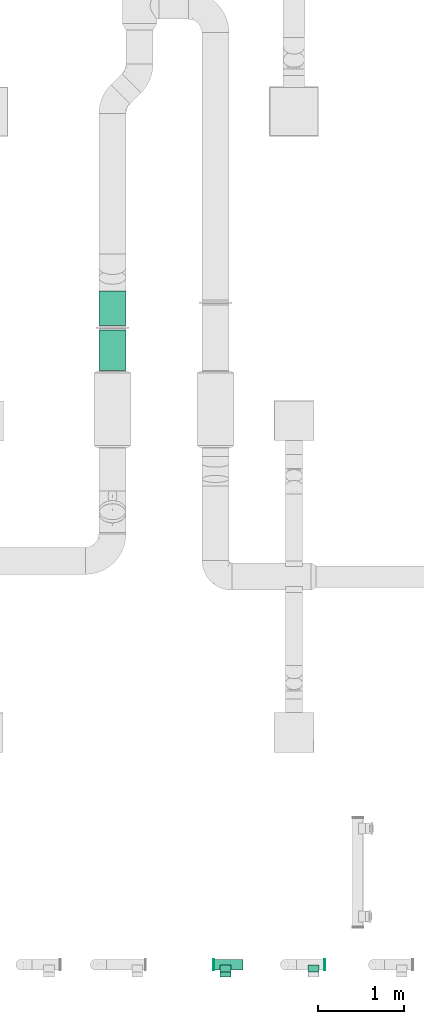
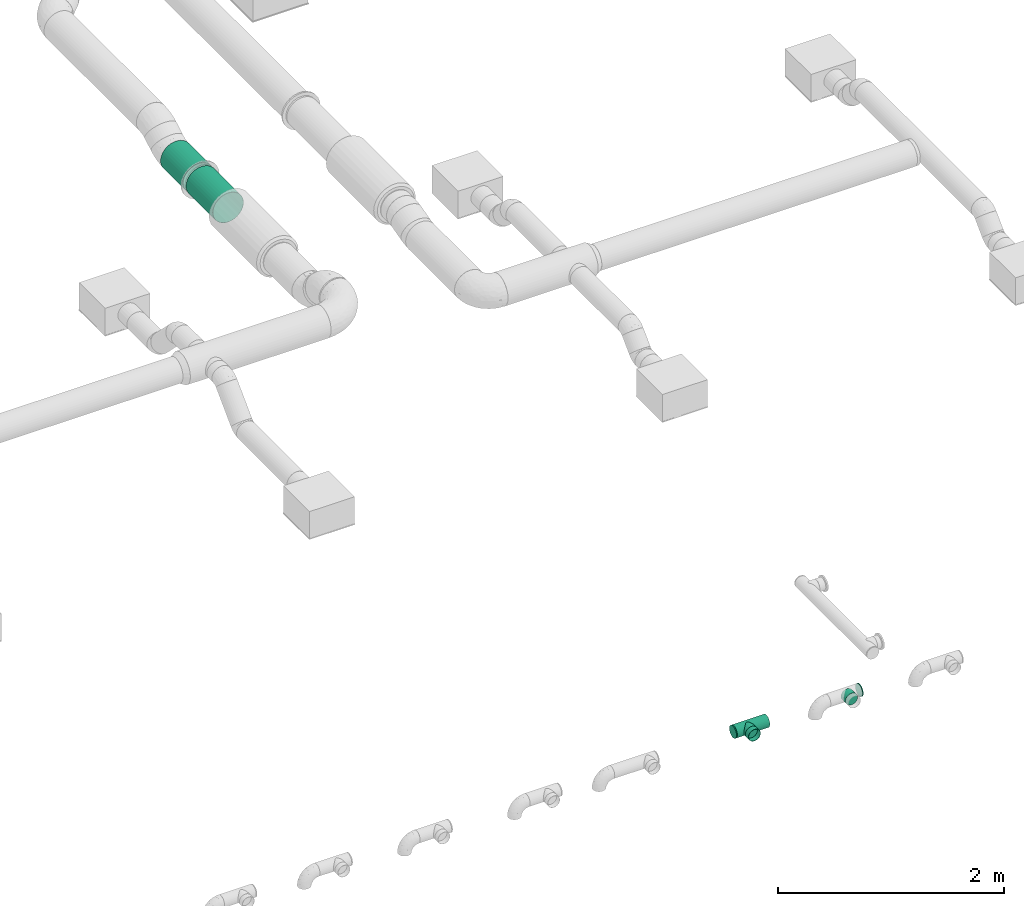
# One storey, part 11 of 63: 4 flow fittings, 4 flow segments.
"""IFC2X3 building model written with IfcOpenShell, lengths in millimetres."""

from ifc_helpers import new_model, entity, si_unit, converted_unit, derived_unit, direction, frame, origin_with_axes, origin_2d_with_axis, place, context, subcontext, project, spatial, hollow_circle, extrude, open_shell, surface_model, source, transform, mapped, type_object, element, save


model = new_model("IFC2X3")

# Units and contexts
model_context = context("Model", 3, precision=0.01, world=frame((0.0, 4.29681676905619e-09, 0.0)), true_north=direction((4.01073788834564e-13, 1.0)))
plan_context = context("Plan", 3, precision=0.01, world=frame((0.0, 4.29681676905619e-09, 0.0)), true_north=direction((4.01073788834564e-13, 1.0)))
body_context = subcontext(model_context, "Body", "Model", "MODEL_VIEW")
ifc_project = project(units=[converted_unit("PLANEANGLEUNIT", "DEGREE", entity("IfcPositiveLengthMeasure", 0.0174532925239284), si_unit("PLANEANGLEUNIT", "RADIAN"), dimensions=[0, 0, 0, 0, 0, 0, 0]), si_unit("AREAUNIT", "SQUARE_METRE"), si_unit("LENGTHUNIT", "METRE", prefix="MILLI"), si_unit("MASSUNIT", "GRAM", prefix="KILO"), si_unit("POWERUNIT", "WATT"), si_unit("PRESSUREUNIT", "PASCAL"), si_unit("FORCEUNIT", "NEWTON", prefix="KILO"), si_unit("ELECTRICVOLTAGEUNIT", "VOLT"), si_unit("ELECTRICCURRENTUNIT", "AMPERE"), si_unit("THERMODYNAMICTEMPERATUREUNIT", "DEGREE_CELSIUS"), si_unit("TIMEUNIT", "SECOND"), si_unit("VOLUMEUNIT", "CUBIC_METRE"), derived_unit("LINEARVELOCITYUNIT", [(si_unit("LENGTHUNIT", "METRE"), 1), (si_unit("TIMEUNIT", "SECOND"), -1)]), derived_unit("VOLUMETRICFLOWRATEUNIT", [(si_unit("VOLUMEUNIT", "CUBIC_METRE"), 1), (si_unit("TIMEUNIT", "SECOND"), -1)]), derived_unit("THERMALTRANSMITTANCEUNIT", [(si_unit("POWERUNIT", "WATT"), 1), (si_unit("THERMODYNAMICTEMPERATUREUNIT", "KELVIN"), -1), (si_unit("AREAUNIT", "SQUARE_METRE"), -1)]), derived_unit("SOUNDPRESSUREUNIT", [(si_unit("PRESSUREUNIT", "PASCAL"), 1)])], contexts=[model_context, plan_context])

# Site, building, storey
site_placement = place(None, frame((0.0, -4.29681676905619e-09, 0.0), z_axis=(0.0, 0.0, 1.0), x_axis=(1.0, 0.0, 0.0)))
site = spatial("IfcSite", under=ifc_project, at=site_placement, CompositionType="ELEMENT")
building_placement = place(site_placement, frame((0.0, 4.29681676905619e-09, 0.0), z_axis=(0.0, 0.0, 1.0), x_axis=(1.0, 0.0, 0.0)))
building = spatial("IfcBuilding", under=site, at=building_placement, Name="mc-building", CompositionType="ELEMENT")
storey_placement = place(building_placement, frame((0.0, 0.0, 210900.0), z_axis=(0.0, 0.0, 1.0), x_axis=(1.0, 0.0, 0.0)))
storey = spatial("IfcBuildingStorey", under=building, at=storey_placement, Name="Nivå F", CompositionType="ELEMENT", Elevation=210900.0)

# Flow fittings
duct_fitting_type_1 = type_object("IfcDuctFittingType", Name="magicirc_tapoutlet_001", PredefinedType="CONNECTOR")
shared_shape_1 = source(origin_with_axes(), body_context, "Body", "SurfaceModel", [
    surface_model("IfcShellBasedSurfaceModel", [(25.0, 0.0, -62.5), (25.0, 16.17619, -60.37037), (25.0, -16.17619, -60.37037), (25.0, -60.37037, 16.17619), (25.0, -31.25, -54.12659), (25.0, -44.19417, -44.19417), (25.0, -54.12659, -31.25), (25.0, 62.5, 0.0), (25.0, 60.37037, 16.17619), (25.0, 44.19417, -44.19417), (25.0, 31.25, -54.12659), (25.0, 60.37037, -16.17619), (25.0, 54.12659, -31.25), (25.0, -60.37037, -16.17619), (25.0, -54.12659, 31.25), (25.0, -44.19417, 44.19417), (25.0, -16.17619, 60.37037), (25.0, -31.25, 54.12659), (25.0, 16.17619, 60.37037), (25.0, 54.12659, 31.25), (25.0, 44.19417, 44.19417), (25.0, 31.25, 54.12659), (25.0, 0.0, 62.5), (25.0, -62.5, 0.0), (0.0, 0.0, 62.5), (0.0, -16.17619, 60.37037), (0.0, -44.19417, 44.19417), (0.0, -31.25, 54.12659), (0.0, -54.12659, 31.25), (0.0, -60.37037, 16.17619), (0.0, -62.5, 0.0), (0.0, -60.37037, -16.17619), (0.0, -44.19417, -44.19417), (0.0, -54.12659, -31.25), (0.0, -31.25, -54.12659), (0.0, -16.17619, -60.37037), (0.0, 0.0, -62.5), (0.0, 16.17619, -60.37037), (0.0, 44.19417, -44.19417), (0.0, 31.25, -54.12659), (0.0, 54.12659, -31.25), (0.0, 60.37037, -16.17619), (0.0, 62.5, 0.0), (0.0, 60.37037, 16.17619), (0.0, 44.19417, 44.19417), (0.0, 54.12659, 31.25), (0.0, 31.25, 54.12659), (0.0, 16.17619, 60.37037), (-56.404, -16.17619, -60.37037), (-56.404, -62.5, 0.0), (-56.404, 0.0, -62.5), (-56.404, -31.25, -54.12659), (-56.404, -44.19417, -44.19417), (-56.404, -54.12659, -31.25), (-56.404, 44.19417, -44.19417), (-56.404, 60.37037, 16.17619), (-56.404, 31.25, -54.12659), (-56.404, 16.17619, -60.37037), (-56.404, 54.12659, -31.25), (-56.404, 60.37037, -16.17619), (-56.404, 62.5, 0.0), (-56.404, -60.37037, -16.17619), (-56.404, -60.37037, 16.17619), (-56.404, -54.12659, 31.25), (-56.404, -44.19417, 44.19417), (-56.404, -31.25, 54.12659), (-56.404, 0.0, 62.5), (-56.404, -16.17619, 60.37037), (-56.404, 44.19417, 44.19417), (-56.404, 54.12659, 31.25), (-56.404, 16.17619, 60.37037), (-56.404, 31.25, 54.12659)], [open_shell([[[0, 1, 2]], [[2, 3, 4]], [[5, 3, 6]], [[4, 3, 5]], [[2, 7, 8]], [[9, 7, 10]], [[1, 10, 7]], [[11, 7, 12]], [[9, 12, 7]], [[7, 2, 1]], [[13, 6, 3]], [[3, 2, 14]], [[15, 14, 2]], [[2, 16, 17]], [[2, 17, 15]], [[2, 18, 16]], [[19, 20, 2]], [[2, 8, 19]], [[20, 21, 2]], [[2, 21, 18]], [[18, 22, 16]], [[23, 13, 3]], [[16, 22, 24]], [[17, 16, 25]], [[25, 16, 24]], [[26, 15, 27]], [[17, 25, 27]], [[17, 27, 15]], [[3, 14, 28]], [[23, 3, 29]], [[28, 14, 26]], [[3, 28, 29]], [[23, 29, 30]], [[15, 26, 14]], [[13, 23, 30]], [[6, 13, 31]], [[31, 13, 30]], [[32, 5, 33]], [[6, 31, 33]], [[6, 33, 5]], [[2, 4, 34]], [[0, 2, 35]], [[34, 4, 32]], [[2, 34, 35]], [[0, 35, 36]], [[5, 32, 4]], [[1, 0, 36]], [[10, 1, 37]], [[37, 1, 36]], [[38, 9, 39]], [[10, 37, 39]], [[10, 39, 9]], [[11, 12, 40]], [[7, 11, 41]], [[40, 12, 38]], [[11, 40, 41]], [[7, 41, 42]], [[9, 38, 12]], [[8, 7, 42]], [[19, 8, 43]], [[43, 8, 42]], [[44, 20, 45]], [[19, 43, 45]], [[19, 45, 20]], [[18, 21, 46]], [[22, 18, 47]], [[46, 21, 44]], [[18, 46, 47]], [[22, 47, 24]], [[20, 44, 21]], [[2, 14, 3]], [[2, 15, 14]], [[17, 2, 16]], [[17, 15, 2]], [[16, 2, 18]], [[19, 2, 8]], [[48, 49, 50]], [[51, 49, 48]], [[52, 53, 49]], [[52, 49, 51]], [[54, 50, 55]], [[50, 54, 56]], [[56, 57, 50]], [[58, 55, 59]], [[55, 58, 54]], [[59, 55, 60]], [[49, 53, 61]], [[62, 63, 50]], [[50, 63, 64]], [[50, 65, 66]], [[64, 65, 50]], [[65, 67, 66]], [[50, 68, 69]], [[69, 55, 50]], [[70, 71, 50]], [[71, 68, 50]], [[70, 50, 66]], [[49, 62, 50]], [[25, 24, 66]], [[27, 25, 65]], [[67, 25, 66]], [[65, 25, 67]], [[65, 64, 27]], [[64, 26, 27]], [[29, 28, 62]], [[30, 29, 49]], [[64, 63, 26]], [[63, 28, 26]], [[62, 28, 63]], [[62, 49, 29]], [[31, 30, 61]], [[33, 31, 53]], [[61, 30, 49]], [[53, 31, 61]], [[53, 52, 33]], [[52, 32, 33]], [[35, 34, 48]], [[36, 35, 50]], [[52, 51, 32]], [[51, 34, 32]], [[48, 34, 51]], [[48, 50, 35]], [[56, 39, 37]], [[50, 37, 36]], [[57, 37, 50]], [[39, 56, 54]], [[57, 56, 37]], [[54, 38, 39]], [[41, 40, 59]], [[42, 41, 60]], [[54, 58, 38]], [[58, 40, 38]], [[59, 40, 58]], [[59, 60, 41]], [[69, 45, 43]], [[55, 43, 42]], [[42, 60, 55]], [[43, 55, 69]], [[69, 68, 45]], [[68, 44, 45]], [[47, 46, 70]], [[24, 47, 66]], [[68, 71, 44]], [[71, 46, 44]], [[70, 46, 71]], [[70, 66, 47]], [[50, 56, 57]], [[60, 59, 55]], [[63, 50, 62]], [[63, 64, 50]], [[65, 66, 50]], [[50, 64, 65]], [[67, 66, 65]], [[55, 50, 69]], [[62, 50, 49]]])]),
])
flow_fitting_1_placement = place(storey_placement, frame((529709.42461, 440830.46265, 2163.0), z_axis=(0.0, 0.0, -1.0), x_axis=(0.0, -1.0, 0.0)))
element("IfcFlowFitting", 1, at=flow_fitting_1_placement, inside=storey, type_object=duct_fitting_type_1, Name="magicirc_tapoutlet_001", context=body_context, shape_type="MappedRepresentation", body=[
    mapped(shared_shape_1, transform((0.0, 0.0, 0.0), scale=1.0)),
])
shared_shape_2 = source(origin_with_axes(), body_context, "Body", "SurfaceModel", [
    surface_model("IfcShellBasedSurfaceModel", [(25.0, 0.0, -62.5), (25.0, -31.25, -54.12659), (25.0, -16.17619, -60.37037), (25.0, 44.19417, -44.19417), (25.0, 62.5, 0.0), (25.0, 31.25, -54.12659), (25.0, 54.12659, -31.25), (25.0, -62.5, 0.0), (25.0, -60.37037, -16.17619), (25.0, -60.37037, 16.17619), (25.0, 16.17619, -60.37037), (25.0, -44.19417, -44.19417), (25.0, -54.12659, -31.25), (25.0, 60.37037, -16.17619), (25.0, 60.37037, 16.17619), (25.0, 54.12659, 31.25), (25.0, 44.19417, 44.19417), (25.0, 31.25, 54.12659), (25.0, 0.0, 62.5), (25.0, 16.17619, 60.37037), (25.0, -44.19417, 44.19417), (25.0, -54.12659, 31.25), (25.0, -16.17619, 60.37037), (25.0, -31.25, 54.12659), (0.0, 0.0, 62.5), (0.0, 16.17619, 60.37037), (0.0, 31.25, 54.12659), (0.0, 44.19417, 44.19417), (0.0, 54.12659, 31.25), (0.0, 60.37037, 16.17619), (0.0, 62.5, 0.0), (0.0, 60.37037, -16.17619), (0.0, 54.12659, -31.25), (0.0, 44.19417, -44.19417), (0.0, 31.25, -54.12659), (0.0, 16.17619, -60.37037), (0.0, 0.0, -62.5), (0.0, -16.17619, -60.37037), (0.0, -31.25, -54.12659), (0.0, -44.19417, -44.19417), (0.0, -54.12659, -31.25), (0.0, -60.37037, -16.17619), (0.0, -62.5, 0.0), (0.0, -60.37037, 16.17619), (0.0, -54.12659, 31.25), (0.0, -44.19417, 44.19417), (0.0, -31.25, 54.12659), (0.0, -16.17619, 60.37037), (-56.404, -44.19417, -44.19417), (-56.404, -54.12659, -31.25), (-56.404, -62.5, 0.0), (-56.404, -31.25, -54.12659), (-56.404, 0.0, -62.5), (-56.404, 62.5, 0.0), (-56.404, 60.37037, -16.17619), (-56.404, 60.37037, 16.17619), (-56.404, -16.17619, -60.37037), (-56.404, 16.17619, -60.37037), (-56.404, 31.25, -54.12659), (-56.404, 44.19417, -44.19417), (-56.404, 54.12659, -31.25), (-56.404, -60.37037, 16.17619), (-56.404, -60.37037, -16.17619), (-56.404, 54.12659, 31.25), (-56.404, 44.19417, 44.19417), (-56.404, 16.17619, 60.37037), (-56.404, 31.25, 54.12659), (-56.404, -16.17619, 60.37037), (-56.404, -54.12659, 31.25), (-56.404, -44.19417, 44.19417), (-56.404, -31.25, 54.12659), (-56.404, 0.0, 62.5)], [open_shell([[[0, 1, 2]], [[3, 4, 5]], [[3, 6, 4]], [[7, 8, 9]], [[10, 4, 0]], [[5, 4, 10]], [[11, 0, 9]], [[0, 11, 1]], [[1, 2, 0]], [[12, 9, 8]], [[9, 12, 11]], [[8, 9, 7]], [[4, 6, 13]], [[14, 15, 0]], [[0, 15, 16]], [[0, 17, 18]], [[16, 17, 0]], [[17, 19, 18]], [[0, 20, 21]], [[21, 9, 0]], [[22, 23, 0]], [[23, 20, 0]], [[22, 0, 18]], [[4, 14, 0]], [[24, 18, 19]], [[25, 19, 17]], [[24, 19, 25]], [[26, 16, 27]], [[26, 25, 17]], [[16, 26, 17]], [[28, 15, 14]], [[29, 14, 4]], [[27, 15, 28]], [[29, 28, 14]], [[30, 29, 4]], [[15, 27, 16]], [[30, 4, 13]], [[31, 13, 6]], [[30, 13, 31]], [[32, 3, 33]], [[32, 31, 6]], [[3, 32, 6]], [[34, 5, 10]], [[35, 10, 0]], [[33, 5, 34]], [[35, 34, 10]], [[36, 35, 0]], [[5, 33, 3]], [[36, 0, 2]], [[37, 2, 1]], [[36, 2, 37]], [[38, 11, 39]], [[38, 37, 1]], [[11, 38, 1]], [[40, 12, 8]], [[41, 8, 7]], [[39, 12, 40]], [[41, 40, 8]], [[42, 41, 7]], [[12, 39, 11]], [[42, 7, 9]], [[43, 9, 21]], [[42, 9, 43]], [[44, 20, 45]], [[44, 43, 21]], [[20, 44, 21]], [[46, 23, 22]], [[47, 22, 18]], [[45, 23, 46]], [[47, 46, 22]], [[24, 47, 18]], [[23, 45, 20]], [[15, 0, 14]], [[15, 16, 0]], [[0, 16, 17]], [[18, 17, 19]], [[9, 0, 21]], [[0, 23, 20]], [[18, 22, 0]], [[14, 0, 4]], [[48, 49, 50]], [[48, 50, 51]], [[36, 37, 52]], [[52, 35, 36]], [[53, 54, 55]], [[52, 56, 57]], [[57, 55, 58]], [[59, 55, 60]], [[58, 55, 59]], [[57, 50, 61]], [[56, 51, 50]], [[62, 50, 49]], [[50, 57, 56]], [[54, 60, 55]], [[55, 57, 63]], [[64, 63, 57]], [[57, 65, 66]], [[57, 66, 64]], [[57, 67, 65]], [[68, 69, 57]], [[57, 61, 68]], [[69, 70, 57]], [[57, 70, 67]], [[67, 71, 65]], [[71, 24, 25]], [[66, 25, 26]], [[71, 25, 65]], [[65, 25, 66]], [[26, 64, 66]], [[26, 27, 64]], [[55, 28, 29]], [[53, 29, 30]], [[27, 63, 64]], [[27, 28, 63]], [[63, 28, 55]], [[29, 53, 55]], [[54, 30, 31]], [[60, 31, 32]], [[53, 30, 54]], [[54, 31, 60]], [[32, 59, 60]], [[32, 33, 59]], [[57, 34, 35]], [[33, 58, 59]], [[33, 34, 58]], [[58, 34, 57]], [[35, 52, 57]], [[37, 38, 51]], [[52, 37, 56]], [[48, 51, 38]], [[37, 51, 56]], [[38, 39, 48]], [[62, 40, 41]], [[50, 41, 42]], [[39, 49, 48]], [[39, 40, 49]], [[49, 40, 62]], [[41, 50, 62]], [[43, 44, 68]], [[42, 43, 61]], [[61, 50, 42]], [[68, 61, 43]], [[44, 69, 68]], [[44, 45, 69]], [[67, 46, 47]], [[71, 47, 24]], [[45, 70, 69]], [[45, 46, 70]], [[70, 46, 67]], [[47, 71, 67]], [[57, 63, 55]], [[57, 64, 63]], [[66, 57, 65]], [[66, 64, 57]], [[65, 57, 67]], [[68, 57, 61]]])]),
])
flow_fitting_2_placement = place(storey_placement, frame((530730.74955, 440830.46265, 2163.0), z_axis=(0.0, 0.0, -1.0), x_axis=(0.0, -1.0, 0.0)))
element("IfcFlowFitting", 2, at=flow_fitting_2_placement, inside=storey, type_object=duct_fitting_type_1, Name="magicirc_tapoutlet_001", context=body_context, shape_type="MappedRepresentation", body=[
    mapped(shared_shape_2, transform((0.0, 0.0, 0.0), scale=1.0)),
])
duct_fitting_type_2 = type_object("IfcDuctFittingType", Name="magicirc_plug_001", PredefinedType="OBSTRUCTION")
shared_shape_3 = source(origin_with_axes(), body_context, "Body", "SurfaceModel", [
    surface_model("IfcShellBasedSurfaceModel", [(0.0, 0.0, -62.5), (0.0, -16.17619, -60.37037), (0.0, 16.17619, -60.37037), (0.0, 31.25, -54.12659), (0.0, 54.12659, -31.25), (0.0, 44.19417, -44.19417), (0.0, 60.37037, -16.17619), (0.0, -31.25, -54.12659), (0.0, -44.19417, -44.19417), (0.0, -62.5, 0.0), (0.0, -54.12659, -31.25), (0.0, -60.37037, -16.17619), (0.0, 62.5, 0.0), (0.0, 60.37037, 16.17619), (0.0, 44.19417, 44.19417), (0.0, 54.12659, 31.25), (0.0, 31.25, 54.12659), (0.0, -54.12659, 31.25), (0.0, -16.17619, 60.37037), (0.0, 16.17619, 60.37037), (0.0, -44.19417, 44.19417), (0.0, -31.25, 54.12659), (0.0, -60.37037, 16.17619), (0.0, 0.0, 62.5), (10.0, 16.17619, -60.37037), (10.0, -16.17619, -60.37037), (10.0, 0.0, -62.5), (10.0, 44.19417, -44.19417), (10.0, 31.25, -54.12659), (10.0, 54.12659, -31.25), (10.0, 60.37037, -16.17619), (10.0, -44.19417, -44.19417), (10.0, -31.25, -54.12659), (10.0, -62.5, 0.0), (10.0, -60.37037, -16.17619), (10.0, -54.12659, -31.25), (10.0, -54.12659, 31.25), (10.0, 44.19417, 44.19417), (10.0, 62.5, 0.0), (10.0, 60.37037, 16.17619), (10.0, 54.12659, 31.25), (10.0, 31.25, 54.12659), (10.0, 16.17619, 60.37037), (10.0, -16.17619, 60.37037), (10.0, -31.25, 54.12659), (10.0, -44.19417, 44.19417), (10.0, -60.37037, 16.17619), (10.0, 0.0, 62.5)], [open_shell([[[0, 1, 2]], [[3, 2, 4]], [[4, 2, 1]], [[5, 3, 4]], [[6, 4, 1]], [[7, 8, 1]], [[9, 1, 8]], [[10, 11, 8]], [[9, 8, 11]], [[9, 6, 1]], [[9, 12, 6]], [[13, 12, 14]], [[15, 13, 14]], [[16, 14, 17]], [[9, 17, 14]], [[16, 18, 19]], [[20, 21, 17]], [[17, 9, 22]], [[21, 18, 17]], [[17, 18, 16]], [[18, 23, 19]], [[14, 12, 9]], [[24, 25, 26]], [[27, 24, 28]], [[25, 24, 29]], [[29, 24, 27]], [[25, 29, 30]], [[25, 31, 32]], [[31, 25, 33]], [[31, 34, 35]], [[34, 31, 33]], [[25, 30, 33]], [[30, 36, 33]], [[37, 38, 39]], [[37, 39, 40]], [[37, 41, 42]], [[38, 37, 43]], [[43, 37, 42]], [[36, 44, 45]], [[46, 33, 36]], [[38, 44, 36]], [[43, 44, 38]], [[42, 47, 43]], [[36, 30, 38]], [[46, 9, 33]], [[36, 22, 46]], [[20, 45, 44]], [[36, 45, 17]], [[21, 44, 43]], [[36, 17, 22]], [[22, 9, 46]], [[18, 47, 23]], [[18, 21, 43]], [[20, 44, 21]], [[20, 17, 45]], [[47, 18, 43]], [[41, 19, 42]], [[37, 16, 41]], [[15, 40, 39]], [[37, 40, 14]], [[13, 39, 38]], [[41, 16, 19]], [[19, 23, 42]], [[13, 15, 39]], [[14, 40, 15]], [[14, 16, 37]], [[12, 13, 38]], [[42, 23, 47]], [[30, 12, 38]], [[29, 6, 30]], [[5, 27, 28]], [[29, 27, 4]], [[3, 28, 24]], [[29, 4, 6]], [[6, 12, 30]], [[2, 26, 0]], [[2, 3, 24]], [[5, 28, 3]], [[5, 4, 27]], [[26, 2, 24]], [[32, 1, 25]], [[31, 7, 32]], [[10, 35, 34]], [[31, 35, 8]], [[11, 34, 33]], [[32, 7, 1]], [[1, 0, 25]], [[11, 10, 34]], [[8, 35, 10]], [[8, 7, 31]], [[9, 11, 33]], [[25, 0, 26]]])]),
])
for number, where, z_axis, x_axis, name in (
    (3, (530855.74987, 440892.96265, 2163.0), (0.0, 0.0, 1.0), (1.0, 0.0, 0.0), "magicirc_plug_001"),
    (4, (529580.58748, 440892.96265, 2163.0), (0.0, 0.0, 1.0), (-1.0, 0.0, 0.0), "magicirc_plug_001"),
):
    element("IfcFlowFitting", number, at=place(storey_placement, frame(where, z_axis=z_axis, x_axis=x_axis)), inside=storey, type_object=duct_fitting_type_2, Name=name, context=body_context, shape_type="MappedRepresentation", body=[
        mapped(shared_shape_3, transform((0.0, 0.0, 0.0), scale=1.0)),
    ])

# Flow segments
duct_segment_type_1 = type_object("IfcDuctSegmentType", Name="KK001T - Spiro kanaler, Forsinket stål", PredefinedType="RIGIDSEGMENT")
shared_shape_4 = source(origin_with_axes(), body_context, "Body", "SweptSolid", [
    extrude(hollow_circle(Radius=62.5, WallThickness=2.0, at=origin_2d_with_axis()), frame((0.0, 0.0, 0.0), z_axis=(1.0, 0.0, 0.0), x_axis=(0.0, 1.0, 0.0)), (0.0, 0.0, 1.0), 53.2),
])
flow_segment_1_placement = place(storey_placement, frame((529709.42461, 440752.25471, 2163.0), z_axis=(0.0, 0.0, 1.0), x_axis=(0.0, 1.0, 0.0)))
element("IfcFlowSegment", 5, at=flow_segment_1_placement, inside=storey, type_object=duct_segment_type_1, Name="KK001T - Spiro kanaler, Forsinket stål", context=body_context, shape_type="MappedRepresentation", body=[
    mapped(shared_shape_4, transform((0.0, 0.0, 0.0), scale=1.0)),
])
shared_shape_5 = source(origin_with_axes(), body_context, "Body", "SweptSolid", [
    extrude(hollow_circle(Radius=62.5, WallThickness=2.0, at=origin_2d_with_axis()), frame((0.0, 0.0, 0.0), z_axis=(1.0, 0.0, 0.0), x_axis=(0.0, 1.0, 0.0)), (0.0, 0.0, 1.0), 331.1),
])
flow_segment_2_placement = place(storey_placement, frame((529911.70917, 440892.96265, 2163.0), z_axis=(0.0, 0.0, 1.0), x_axis=(-1.0, 0.0, 0.0)))
element("IfcFlowSegment", 6, at=flow_segment_2_placement, inside=storey, type_object=duct_segment_type_1, Name="KK001T - Spiro kanaler, Forsinket stål", context=body_context, shape_type="MappedRepresentation", body=[
    mapped(shared_shape_5, transform((0.0, 0.0, 0.0), scale=1.0)),
])
duct_segment_type_2 = type_object("IfcDuctSegmentType", Name="Sirkulær kanal", PredefinedType="RIGIDSEGMENT")
shared_shape_6 = source(origin_with_axes(), body_context, "Body", "SweptSolid", [
    extrude(hollow_circle(Radius=157.5, WallThickness=2.0, at=origin_2d_with_axis()), frame((0.0, 0.0, 0.0), z_axis=(1.0, 0.0, 0.0), x_axis=(0.0, 1.0, 0.0)), (0.0, 0.0, 1.0), 470.0),
])
flow_segment_3_placement = place(storey_placement, frame((528399.04312, 448252.45137, 4050.0), z_axis=(0.0, 0.0, 1.0), x_axis=(0.0, -1.0, 0.0)))
element("IfcFlowSegment", 7, at=flow_segment_3_placement, inside=storey, type_object=duct_segment_type_2, Name="Sirkulær kanal", context=body_context, shape_type="MappedRepresentation", body=[
    mapped(shared_shape_6, transform((0.0, 0.0, 0.0), scale=1.0)),
])
shared_shape_7 = source(origin_with_axes(), body_context, "Body", "SweptSolid", [
    extrude(hollow_circle(Radius=157.5, WallThickness=2.0, at=origin_2d_with_axis()), frame((0.0, 0.0, 0.0), z_axis=(1.0, 0.0, 0.0), x_axis=(0.0, 1.0, 0.0)), (0.0, 0.0, 1.0), 396.2),
])
flow_segment_4_placement = place(storey_placement, frame((528399.04312, 448703.68583, 4050.0), z_axis=(0.0, 0.0, 1.0), x_axis=(0.0, -1.0, 0.0)))
element("IfcFlowSegment", 8, at=flow_segment_4_placement, inside=storey, type_object=duct_segment_type_2, Name="Sirkulær kanal", context=body_context, shape_type="MappedRepresentation", body=[
    mapped(shared_shape_7, transform((0.0, 0.0, 0.0), scale=1.0)),
])

save(model, "model.ifc")
